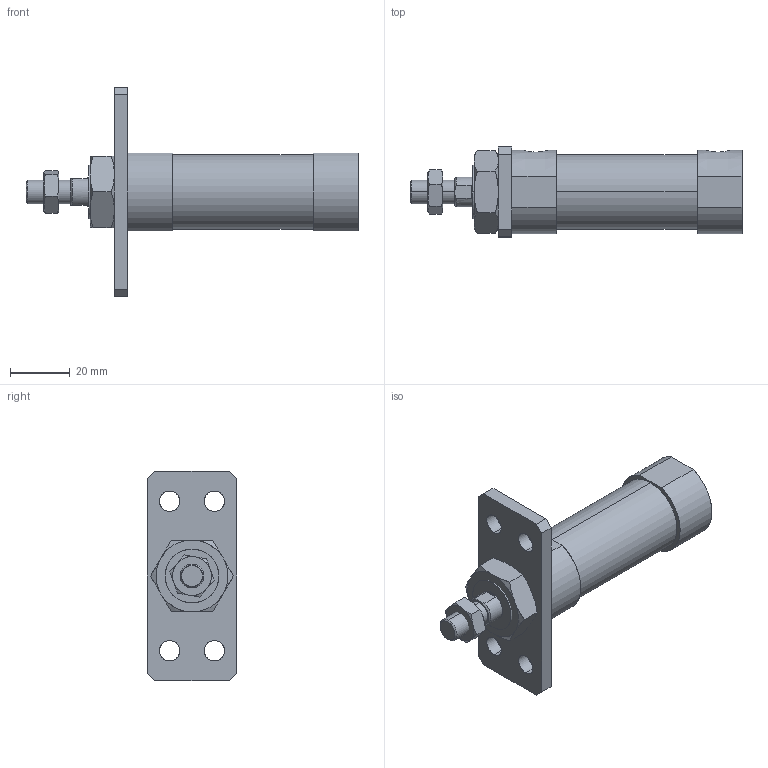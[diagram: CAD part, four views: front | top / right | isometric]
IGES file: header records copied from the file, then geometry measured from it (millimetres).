
Start section: SolidWorks IGES file using analytic representation for surfaces
Global section: file name: C:\Users\Toshiba\Desktop\JGND2-20-15-A.IGS; native system: SolidWorks 2014; preprocessor: SolidWorks 2014; author: Toshiba; date: 160804.101936; units: millimetre
Bounding box: 111 x 30 x 70 mm (x, y, z)
Surface area: 16741.2 mm2 (no closed solid volume)
Topology: 0 solids, 0 shells, 104 faces, 1876 edges, 1876 vertices
Faces by surface type: bspline 68, revolution 36
